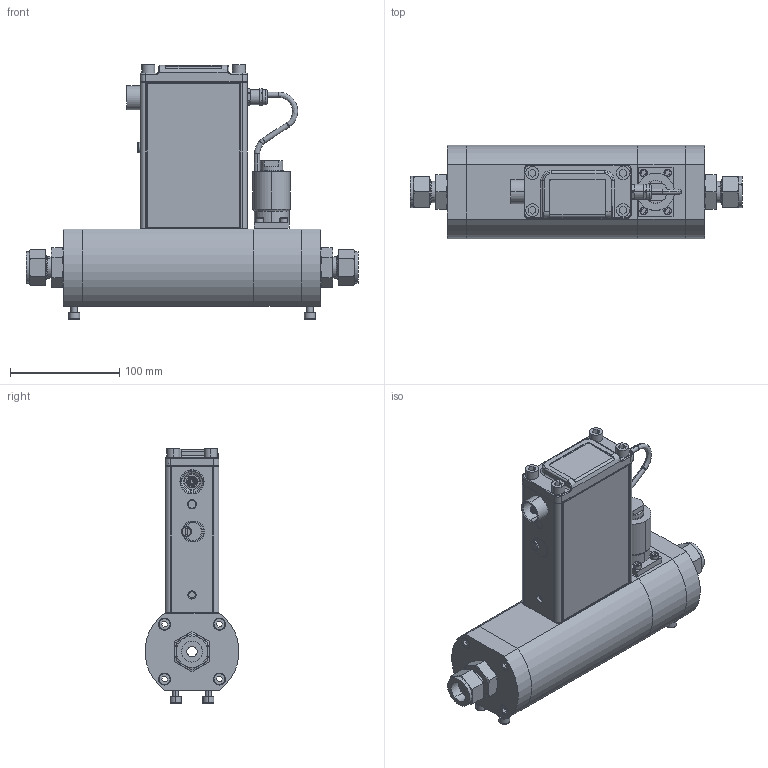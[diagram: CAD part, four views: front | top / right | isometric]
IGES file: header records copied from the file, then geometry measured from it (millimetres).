
Start section: SolidWorks IGES file using analytic representation for surfaces
Global section: file name: G:\Engineering\CAD MODELS FOR SALES\CAD MODEL STORAGE\SLA\SLAMF53\Customer Files\IGES\SLAMF53-A-2E-2-Y-REVB.IGS; native system: SolidWorks 2020; preprocessor: SolidWorks 2020; author: CFehr; date: 200924.162020; units: inch
Bounding box: 303.47 x 85.69 x 233.03 mm (x, y, z)
Volume: 2411189.2 mm3; surface area: 909579.5 mm2
Topology: 148 solids, 148 shells, 2811 faces, 7291 edges, 4909 vertices
Faces by surface type: revolution 1599, plane 1179, bspline 33
